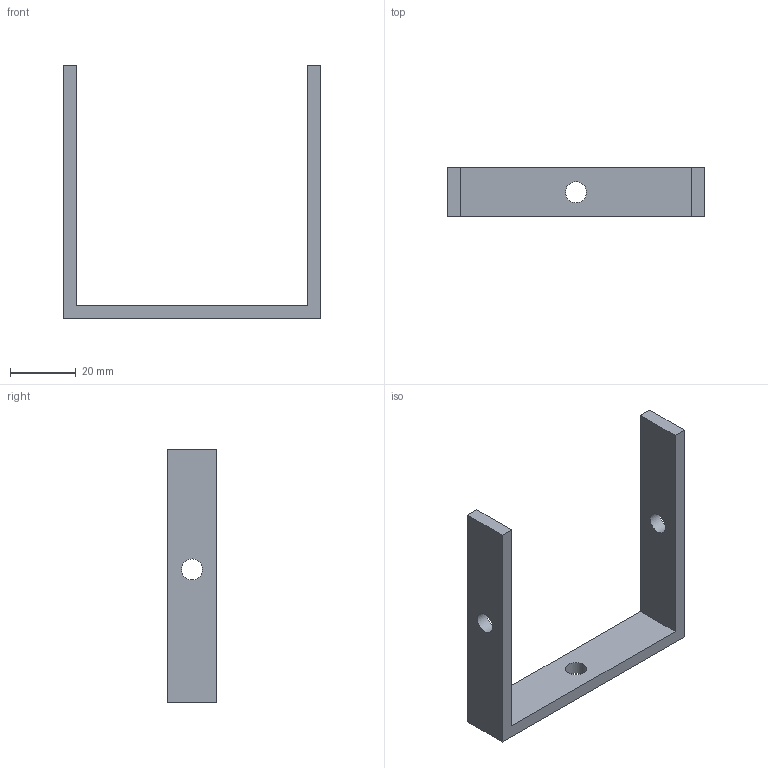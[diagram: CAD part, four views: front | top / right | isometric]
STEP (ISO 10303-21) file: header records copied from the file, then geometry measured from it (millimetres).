
FILE_DESCRIPTION(('Mechanical CAD reference from nasji.com'),'2;1');
FILE_NAME('NASJI.step','',(''),(''),'','NASJI distribution','');
FILE_SCHEMA(('AUTOMOTIVE_DESIGN { 1 0 10303 214 1 1 1 1 }'));
Length unit declared in the file: millimetre
Products named in the file (1): Open CASCADE STEP translator 7.8 152
Bounding box: 78.39 x 15.04 x 77.1 mm (x, y, z)
Volume: 13125.3 mm3; surface area: 8721 mm2
Topology: 1 solids, 1 shells, 13 faces, 33 edges, 22 vertices
Faces by surface type: plane 10, cylinder 3
Full cylindrical faces by diameter (mm): 6.4 x3
Entity records: 852 total; most frequent: CARTESIAN_POINT 163, DIRECTION 125, LINE 83, VECTOR 83, ORIENTED_EDGE 66, PCURVE 66, DEFINITIONAL_REPRESENTATION 66, EDGE_CURVE 33
